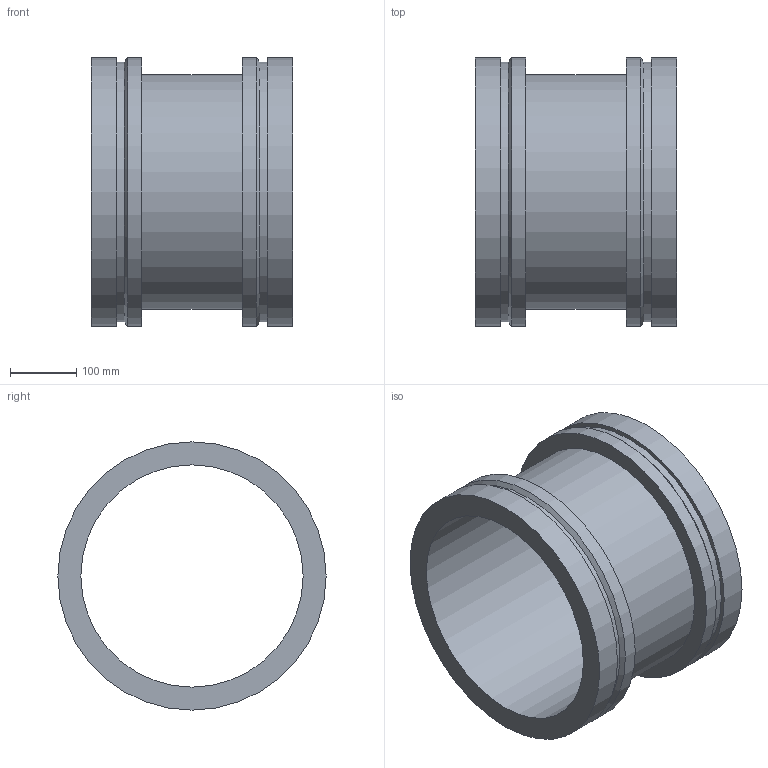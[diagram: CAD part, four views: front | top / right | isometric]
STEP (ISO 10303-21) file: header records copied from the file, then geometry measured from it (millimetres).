
FILE_DESCRIPTION(/* description */ ('VIC ADAPTER NIPPLE No W43 VR','CAx-IF Rec.Pracs.---Representation and Presentation of Product Manufacturing Information (PMI)---4.0---2014-10-13'),/* implementation_level */ '2;1');
FILE_NAME(/* name */ 'C:\Users\kkamble\AppData\Roaming\Autodesk\ApplicationPlugins\Back Up\Victaulic_Vic-Ring_Adapter Nipple_No W43 VR (AGR)\Victaulic_Vic-Ring_Adapter Nipple_No W43 VR (AGR)_14 (350).stp',/* time_stamp */ '2020-09-10T11:31:01+05:00',/* author */ ('cps_temp'),/* organization */ ('Victaulic'),/* preprocessor_version */ 'ST-DEVELOPER v17.2',/* originating_system */ 'Autodesk Inventor 2019',/* authorisation */ '');
FILE_SCHEMA (('AP242_MANAGED_MODEL_BASED_3D_ENGINEERING_MIM_LF { 1 0 10303 442 1 1 4 }'));
Length unit declared in the file: inch
Products named in the file (1): W43 VR-14.0
Bounding box: 304.8 x 406.4 x 406.4 mm (x, y, z)
Volume: 7562578.7 mm3; surface area: 851686.2 mm2
Topology: 1 solids, 1 shells, 16 faces, 42 edges, 32 vertices
Faces by surface type: cylinder 8, plane 6, cone 2
Full cylindrical faces by diameter (mm): 336.55 x1, 355.6 x1, 393.7 x2, 406.4 x4
Entity records: 686 total; most frequent: DIRECTION 134, CARTESIAN_POINT 108, ORIENTED_EDGE 84, AXIS2_PLACEMENT_3D 62, EDGE_CURVE 42, CIRCLE 32, VERTEX_POINT 32, EDGE_LOOP 22
